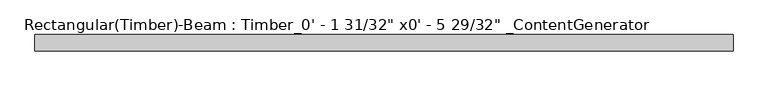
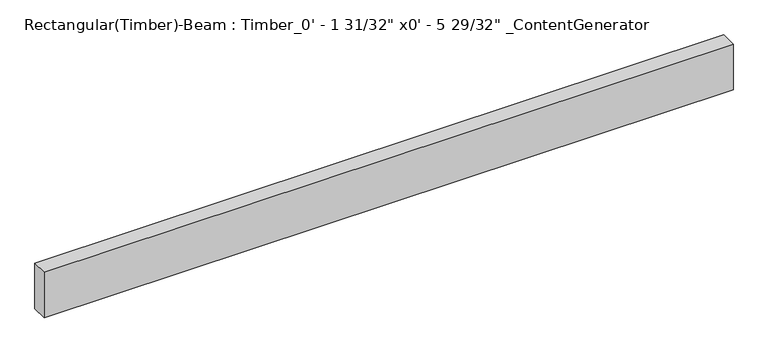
"""IFC4 building model written with IfcOpenShell, lengths in millimetres: beam geometry."""

from ifc_helpers import new_model, si_unit, frame, origin, place, context, project, spatial, polyline, outline, extrude, source, transform, mapped, element, save


def beam_0edfb8d4(model_context):
    return source(origin(), model_context, "Body", "SweptSolid", [
        extrude(outline(polyline([(1092.2, 25.4), (1092.2, -25.4), (-1092.2, -25.4), (-1092.2, 25.4), (1092.2, 25.4)])), frame((0.0, 0.0, -76.2), z_axis=(0.0, 0.0, 1.0), x_axis=(1.0, 0.0, 0.0)), (0.0, 0.0, 1.0), 152.4),
    ])


if __name__ == "__main__":
    model = new_model("IFC4")
    model_context = context("Model", 3, world=origin())
    ifc_project = project(units=[si_unit("LENGTHUNIT", "METRE", prefix="MILLI")], contexts=[model_context])
    site = spatial("IfcSite", under=ifc_project)
    building = spatial("IfcBuilding", under=site)
    placement = place(None, origin())
    beam_shape = beam_0edfb8d4(model_context)
    element("IfcBeam", 1, ObjectType="Rectangular(Timber)-Beam : Timber_0' - 1 31/32\" x0' - 5 29/32\" _ContentGenerator", at=placement, inside=building, context=model_context, shape_type="MappedRepresentation", body=[
        mapped(beam_shape, transform((0.0, 0.0, 0.0), x_axis=(1.0, 0.0, 0.0), y_axis=(0.0, 1.0, 0.0), z_axis=(0.0, 0.0, 1.0))),
    ])
    save(model, "model.ifc")
